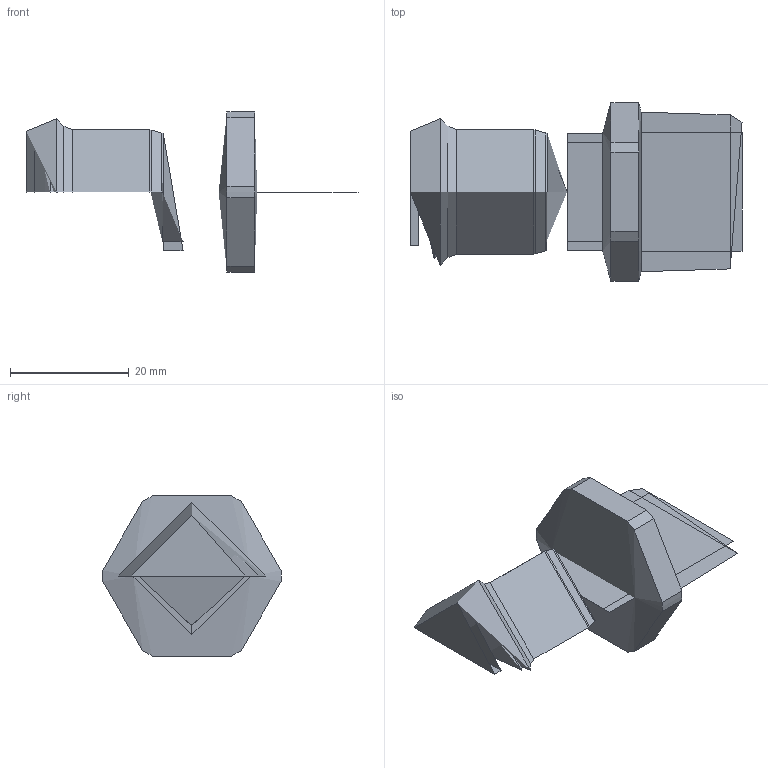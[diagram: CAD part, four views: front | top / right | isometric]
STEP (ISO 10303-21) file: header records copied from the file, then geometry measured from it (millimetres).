
FILE_DESCRIPTION(('FreeCAD Model'),'2;1');
FILE_NAME('Open CASCADE Shape Model','2025-10-20T15:01:36',('Author'),( ''),'Open CASCADE STEP processor 7.8','FreeCAD','Unknown');
FILE_SCHEMA(('AUTOMOTIVE_DESIGN { 1 0 10303 214 1 1 1 1 }'));
Length unit declared in the file: millimetre
Products named in the file (7): Unnamed170; COMPOUND; COMPOUND001; X-Achse; XY-Ebene; COMPOUND002; COMPOUND003
Assembly tree (18 placements, depth 3):
  Unnamed170
    COMPOUND
    COMPOUND001
      COMPOUND
    X-Achse  x6
    XY-Ebene  x6
    COMPOUND002
    COMPOUND003
      COMPOUND002
Bounding box: 56 x 30.11 x 27 mm (x, y, z)
Volume: 18417.3 mm3; surface area: 17178.1 mm2
Topology: 4 solids, 4 shells, 80 faces, 252 edges, 176 vertices
Faces by surface type: bspline 80
Entity records: 1986 total; most frequent: CARTESIAN_POINT 1128, ORIENTED_EDGE 246, EDGE_CURVE 123, VERTEX_POINT 88, FACE_BOUND 45, EDGE_LOOP 45, ADVANCED_FACE 40, DIRECTION 39
